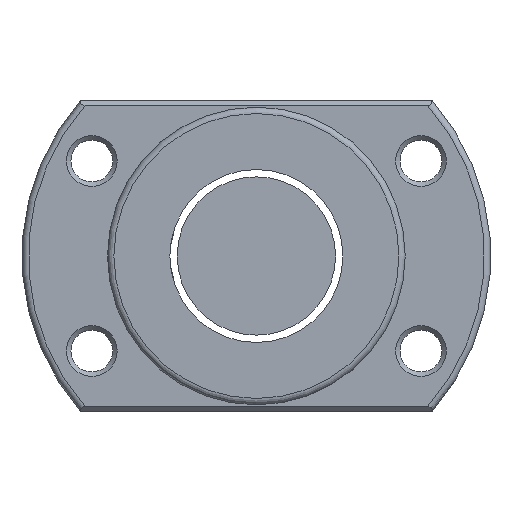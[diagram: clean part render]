
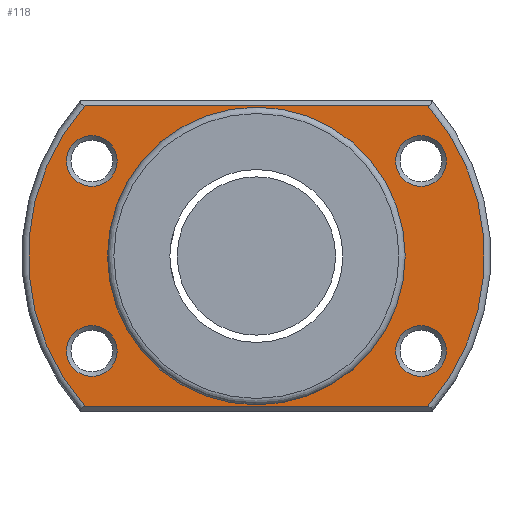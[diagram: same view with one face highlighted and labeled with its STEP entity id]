
A CAD part, left-side view. The second image highlights one B-rep face of the part: STEP entity #118.
In plain terms, the highlighted planar face has unit normal (-1, 0, 0).
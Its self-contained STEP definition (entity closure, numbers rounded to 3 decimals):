
#6 = VERTEX_POINT ( 'NONE', #1600 ) ;
#9 = CARTESIAN_POINT ( 'NONE',  ( -74., -25.981, 19. ) ) ;
#23 = CARTESIAN_POINT ( 'NONE',  ( -74., 37., 0. ) ) ;
#118 = ADVANCED_FACE ( 'NONE', ( #2782, #265, #2096, #2129, #2327, #2530 ), #695, .T. ) ;
#139 = ORIENTED_EDGE ( 'NONE', *, *, #397, .T. ) ;
#209 = EDGE_CURVE ( 'NONE', #2670, #2553, #2465, .T. ) ;
#265 = FACE_BOUND ( 'NONE', #948, .T. ) ;
#326 = AXIS2_PLACEMENT_3D ( 'NONE', #2219, #2448, #1986 ) ;
#328 = ORIENTED_EDGE ( 'NONE', *, *, #663, .T. ) ;
#375 = VERTEX_POINT ( 'NONE', #2513 ) ;
#397 = EDGE_CURVE ( 'NONE', #375, #375, #2517, .T. ) ;
#486 = DIRECTION ( 'NONE',  ( 1., 0., 0. ) ) ;
#537 = DIRECTION ( 'NONE',  ( 0., 0., 1. ) ) ;
#566 = VECTOR ( 'NONE', #1729, 1000. ) ;
#612 = AXIS2_PLACEMENT_3D ( 'NONE', #23, #1623, #1866 ) ;
#619 = EDGE_CURVE ( 'NONE', #2972, #2972, #1052, .T. ) ;
#639 = CARTESIAN_POINT ( 'NONE',  ( -74., 37., -23.8 ) ) ;
#663 = EDGE_CURVE ( 'NONE', #2553, #1655, #2722, .T. ) ;
#664 = ORIENTED_EDGE ( 'NONE', *, *, #2705, .T. ) ;
#686 = DIRECTION ( 'NONE',  ( 0., 0., 1. ) ) ;
#695 = PLANE ( 'NONE',  #612 ) ;
#747 = DIRECTION ( 'NONE',  ( 0., 0., 1. ) ) ;
#749 = CARTESIAN_POINT ( 'NONE',  ( -74., -27.01, 23.8 ) ) ;
#778 = DIRECTION ( 'NONE',  ( 1., 0., 0. ) ) ;
#783 = EDGE_LOOP ( 'NONE', ( #139 ) ) ;
#810 = AXIS2_PLACEMENT_3D ( 'NONE', #1470, #1907, #747 ) ;
#897 = EDGE_LOOP ( 'NONE', ( #1436 ) ) ;
#948 = EDGE_LOOP ( 'NONE', ( #2070 ) ) ;
#961 = EDGE_CURVE ( 'NONE', #1865, #1865, #1732, .T. ) ;
#1052 = CIRCLE ( 'NONE', #326, 4. ) ;
#1054 = EDGE_LOOP ( 'NONE', ( #328, #2068, #1955, #2811 ) ) ;
#1075 = CARTESIAN_POINT ( 'NONE',  ( -74., 37., 23.8 ) ) ;
#1101 = AXIS2_PLACEMENT_3D ( 'NONE', #1956, #1982, #2417 ) ;
#1111 = EDGE_CURVE ( 'NONE', #1655, #6, #2566, .T. ) ;
#1183 = ORIENTED_EDGE ( 'NONE', *, *, #1928, .T. ) ;
#1201 = AXIS2_PLACEMENT_3D ( 'NONE', #2332, #486, #1694 ) ;
#1389 = CARTESIAN_POINT ( 'NONE',  ( -74., 0., 0. ) ) ;
#1436 = ORIENTED_EDGE ( 'NONE', *, *, #619, .T. ) ;
#1470 = CARTESIAN_POINT ( 'NONE',  ( -74., -25.981, -15. ) ) ;
#1596 = VECTOR ( 'NONE', #2502, 1000. ) ;
#1600 = CARTESIAN_POINT ( 'NONE',  ( -74., 27.01, -23.8 ) ) ;
#1623 = DIRECTION ( 'NONE',  ( -1., 0., 0. ) ) ;
#1637 = CIRCLE ( 'NONE', #1201, 23.5 ) ;
#1655 = VERTEX_POINT ( 'NONE', #2229 ) ;
#1680 = CARTESIAN_POINT ( 'NONE',  ( -74., -27.01, -23.8 ) ) ;
#1694 = DIRECTION ( 'NONE',  ( 0., 0., -1. ) ) ;
#1696 = CARTESIAN_POINT ( 'NONE',  ( -74., 0., 0. ) ) ;
#1707 = DIRECTION ( 'NONE',  ( 0., 0., 1. ) ) ;
#1729 = DIRECTION ( 'NONE',  ( 0., 1., 0. ) ) ;
#1732 = CIRCLE ( 'NONE', #810, 4. ) ;
#1841 = VERTEX_POINT ( 'NONE', #2053 ) ;
#1865 = VERTEX_POINT ( 'NONE', #2584 ) ;
#1866 = DIRECTION ( 'NONE',  ( 0., 0., 1. ) ) ;
#1907 = DIRECTION ( 'NONE',  ( 1., 0., 0. ) ) ;
#1928 = EDGE_CURVE ( 'NONE', #1841, #1841, #1637, .T. ) ;
#1950 = CARTESIAN_POINT ( 'NONE',  ( -74., 25.981, -15. ) ) ;
#1955 = ORIENTED_EDGE ( 'NONE', *, *, #2001, .T. ) ;
#1956 = CARTESIAN_POINT ( 'NONE',  ( -74., -25.981, 15. ) ) ;
#1982 = DIRECTION ( 'NONE',  ( 1., 0., 0. ) ) ;
#1986 = DIRECTION ( 'NONE',  ( 0., 0., 1. ) ) ;
#2001 = EDGE_CURVE ( 'NONE', #6, #2670, #2728, .T. ) ;
#2053 = CARTESIAN_POINT ( 'NONE',  ( -74., 0., -23.5 ) ) ;
#2068 = ORIENTED_EDGE ( 'NONE', *, *, #1111, .T. ) ;
#2070 = ORIENTED_EDGE ( 'NONE', *, *, #961, .T. ) ;
#2096 = FACE_BOUND ( 'NONE', #2296, .T. ) ;
#2121 = AXIS2_PLACEMENT_3D ( 'NONE', #1389, #2316, #686 ) ;
#2129 = FACE_BOUND ( 'NONE', #897, .T. ) ;
#2219 = CARTESIAN_POINT ( 'NONE',  ( -74., 25.981, 15. ) ) ;
#2229 = CARTESIAN_POINT ( 'NONE',  ( -74., 27.01, 23.8 ) ) ;
#2237 = CARTESIAN_POINT ( 'NONE',  ( -74., 25.981, 19. ) ) ;
#2259 = EDGE_LOOP ( 'NONE', ( #1183 ) ) ;
#2296 = EDGE_LOOP ( 'NONE', ( #664 ) ) ;
#2316 = DIRECTION ( 'NONE',  ( -1., 0., 0. ) ) ;
#2327 = FACE_BOUND ( 'NONE', #2259, .T. ) ;
#2332 = CARTESIAN_POINT ( 'NONE',  ( -74., 0., 0. ) ) ;
#2417 = DIRECTION ( 'NONE',  ( 0., 0., 1. ) ) ;
#2448 = DIRECTION ( 'NONE',  ( 1., 0., 0. ) ) ;
#2465 = CIRCLE ( 'NONE', #2121, 36. ) ;
#2502 = DIRECTION ( 'NONE',  ( 0., -1., 0. ) ) ;
#2513 = CARTESIAN_POINT ( 'NONE',  ( -74., 25.981, -11. ) ) ;
#2517 = CIRCLE ( 'NONE', #2953, 4. ) ;
#2529 = VERTEX_POINT ( 'NONE', #9 ) ;
#2530 = FACE_OUTER_BOUND ( 'NONE', #1054, .T. ) ;
#2553 = VERTEX_POINT ( 'NONE', #749 ) ;
#2566 = CIRCLE ( 'NONE', #2617, 36. ) ;
#2584 = CARTESIAN_POINT ( 'NONE',  ( -74., -25.981, -11. ) ) ;
#2617 = AXIS2_PLACEMENT_3D ( 'NONE', #1696, #2627, #537 ) ;
#2627 = DIRECTION ( 'NONE',  ( -1., 0., 0. ) ) ;
#2670 = VERTEX_POINT ( 'NONE', #1680 ) ;
#2705 = EDGE_CURVE ( 'NONE', #2529, #2529, #2862, .T. ) ;
#2722 = LINE ( 'NONE', #1075, #566 ) ;
#2728 = LINE ( 'NONE', #639, #1596 ) ;
#2782 = FACE_BOUND ( 'NONE', #783, .T. ) ;
#2811 = ORIENTED_EDGE ( 'NONE', *, *, #209, .T. ) ;
#2862 = CIRCLE ( 'NONE', #1101, 4. ) ;
#2953 = AXIS2_PLACEMENT_3D ( 'NONE', #1950, #778, #1707 ) ;
#2972 = VERTEX_POINT ( 'NONE', #2237 ) ;
